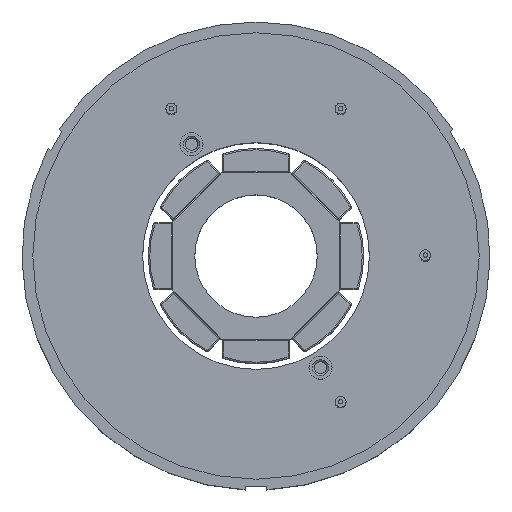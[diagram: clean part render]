
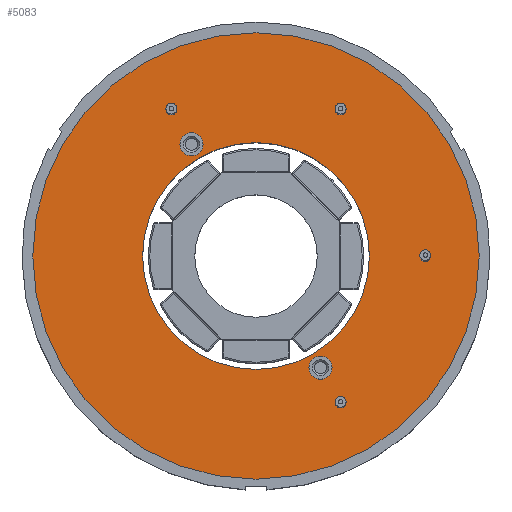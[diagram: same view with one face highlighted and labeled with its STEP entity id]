
A CAD part, top view. The second image highlights one B-rep face of the part: STEP entity #5083.
In plain terms, the highlighted planar face has unit normal (0, 0, 1).
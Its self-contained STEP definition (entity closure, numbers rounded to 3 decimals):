
#1054=PLANE('',#5678);
#1286=ORIENTED_EDGE('',*,*,#2608,.T.);
#1287=ORIENTED_EDGE('',*,*,#2609,.T.);
#1288=ORIENTED_EDGE('',*,*,#2610,.T.);
#1289=ORIENTED_EDGE('',*,*,#2611,.T.);
#1290=ORIENTED_EDGE('',*,*,#2612,.T.);
#1291=ORIENTED_EDGE('',*,*,#2613,.T.);
#1292=ORIENTED_EDGE('',*,*,#2606,.T.);
#1293=ORIENTED_EDGE('',*,*,#2607,.F.);
#2606=EDGE_CURVE('',#3496,#3496,#4110,.T.);
#2607=EDGE_CURVE('',#3497,#3497,#4111,.T.);
#2608=EDGE_CURVE('',#3498,#3498,#4112,.T.);
#2609=EDGE_CURVE('',#3499,#3499,#4113,.T.);
#2610=EDGE_CURVE('',#3500,#3500,#4114,.T.);
#2611=EDGE_CURVE('',#3501,#3501,#4115,.T.);
#2612=EDGE_CURVE('',#3502,#3502,#4116,.T.);
#2613=EDGE_CURVE('',#3503,#3503,#4117,.T.);
#3496=VERTEX_POINT('',#7536);
#3497=VERTEX_POINT('',#7539);
#3498=VERTEX_POINT('',#7542);
#3499=VERTEX_POINT('',#7544);
#3500=VERTEX_POINT('',#7546);
#3501=VERTEX_POINT('',#7548);
#3502=VERTEX_POINT('',#7550);
#3503=VERTEX_POINT('',#7552);
#4110=CIRCLE('',#5675,15.75);
#4111=CIRCLE('',#5677,31.);
#4112=CIRCLE('',#5679,1.6);
#4113=CIRCLE('',#5680,1.6);
#4114=CIRCLE('',#5681,0.5);
#4115=CIRCLE('',#5682,0.5);
#4116=CIRCLE('',#5683,0.5);
#4117=CIRCLE('',#5684,0.5);
#4364=EDGE_LOOP('',(#1286));
#4365=EDGE_LOOP('',(#1287));
#4366=EDGE_LOOP('',(#1288));
#4367=EDGE_LOOP('',(#1289));
#4368=EDGE_LOOP('',(#1290));
#4369=EDGE_LOOP('',(#1291));
#4370=EDGE_LOOP('',(#1292));
#4371=EDGE_LOOP('',(#1293));
#4727=FACE_BOUND('',#4364,.T.);
#4728=FACE_BOUND('',#4365,.T.);
#4729=FACE_BOUND('',#4366,.T.);
#4730=FACE_BOUND('',#4367,.T.);
#4731=FACE_BOUND('',#4368,.T.);
#4732=FACE_BOUND('',#4369,.T.);
#4733=FACE_BOUND('',#4370,.T.);
#4734=FACE_BOUND('',#4371,.T.);
#5083=ADVANCED_FACE('',(#4727,#4728,#4729,#4730,#4731,#4732,#4733,#4734),
#1054,.F.);
#5675=AXIS2_PLACEMENT_3D('',#7535,#6215,#6216);
#5677=AXIS2_PLACEMENT_3D('',#7538,#6219,#6220);
#5678=AXIS2_PLACEMENT_3D('',#7540,#6221,#6222);
#5679=AXIS2_PLACEMENT_3D('',#7541,#6223,#6224);
#5680=AXIS2_PLACEMENT_3D('',#7543,#6225,#6226);
#5681=AXIS2_PLACEMENT_3D('',#7545,#6227,#6228);
#5682=AXIS2_PLACEMENT_3D('',#7547,#6229,#6230);
#5683=AXIS2_PLACEMENT_3D('',#7549,#6231,#6232);
#5684=AXIS2_PLACEMENT_3D('',#7551,#6233,#6234);
#6215=DIRECTION('',(0.,0.,-1.));
#6216=DIRECTION('',(1.,0.,0.));
#6219=DIRECTION('',(0.,0.,-1.));
#6220=DIRECTION('',(1.,0.,0.));
#6221=DIRECTION('',(0.,0.,-1.));
#6222=DIRECTION('',(-1.,0.,0.));
#6223=DIRECTION('',(0.,0.,-1.));
#6224=DIRECTION('',(0.,-1.,0.));
#6225=DIRECTION('',(0.,0.,-1.));
#6226=DIRECTION('',(0.,-1.,0.));
#6227=DIRECTION('',(0.,0.,-1.));
#6228=DIRECTION('',(0.,-1.,0.));
#6229=DIRECTION('',(0.,0.,-1.));
#6230=DIRECTION('',(0.,-1.,0.));
#6231=DIRECTION('',(0.,0.,-1.));
#6232=DIRECTION('',(0.,-1.,0.));
#6233=DIRECTION('',(0.,0.,-1.));
#6234=DIRECTION('',(0.,-1.,0.));
#7535=CARTESIAN_POINT('',(0.,0.,13.15));
#7536=CARTESIAN_POINT('',(15.75,0.,13.15));
#7538=CARTESIAN_POINT('',(0.,0.,13.15));
#7539=CARTESIAN_POINT('',(31.,0.,13.15));
#7540=CARTESIAN_POINT('',(0.,0.,13.15));
#7541=CARTESIAN_POINT('',(8.955,-15.511,13.15));
#7542=CARTESIAN_POINT('',(8.955,-17.111,13.15));
#7543=CARTESIAN_POINT('',(-8.955,15.511,13.15));
#7544=CARTESIAN_POINT('',(-8.955,13.911,13.15));
#7545=CARTESIAN_POINT('',(-11.75,20.352,13.15));
#7546=CARTESIAN_POINT('',(-11.75,19.852,13.15));
#7547=CARTESIAN_POINT('',(11.75,-20.352,13.15));
#7548=CARTESIAN_POINT('',(11.75,-20.852,13.15));
#7549=CARTESIAN_POINT('',(23.5,0.,13.15));
#7550=CARTESIAN_POINT('',(23.5,-0.5,13.15));
#7551=CARTESIAN_POINT('',(11.75,20.352,13.15));
#7552=CARTESIAN_POINT('',(11.75,19.852,13.15));
